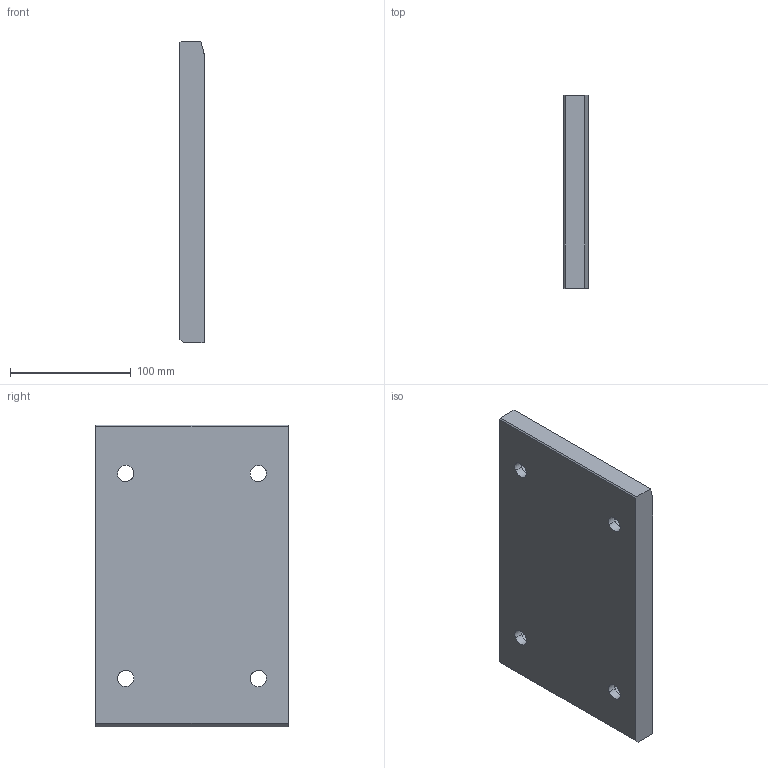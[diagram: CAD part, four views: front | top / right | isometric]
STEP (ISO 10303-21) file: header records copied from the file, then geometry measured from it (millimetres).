
FILE_DESCRIPTION (( 'STEP AP214' ), '1' );
FILE_NAME ('SW225-01-160x250.STEP', '2020-10-21T10:39:03', ( 'August' ), ( '' ), 'SwSTEP 2.0', 'SolidWorks 2018', '' );
FILE_SCHEMA (( 'AUTOMOTIVE_DESIGN' ));
Length unit declared in the file: millimetre
Products named in the file (1): SW225-01-160x250
Bounding box: 20 x 160 x 250 mm (x, y, z)
Volume: 776709.3 mm3; surface area: 98924.5 mm2
Topology: 1 solids, 1 shells, 30 faces, 72 edges, 48 vertices
Faces by surface type: cylinder 17, plane 13
Entity records: 1026 total; most frequent: CARTESIAN_POINT 252, DIRECTION 158, ORIENTED_EDGE 144, EDGE_CURVE 72, AXIS2_PLACEMENT_3D 60, VERTEX_POINT 48, EDGE_LOOP 42, LINE 38
